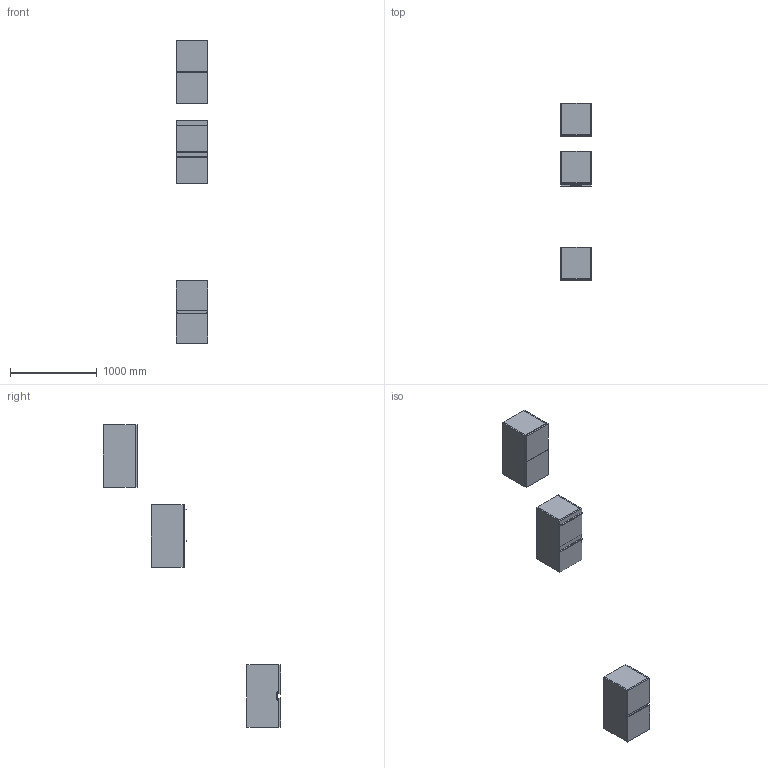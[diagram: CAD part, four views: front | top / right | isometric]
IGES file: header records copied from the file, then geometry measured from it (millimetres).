
Start section: Data from Parasolid IGES Translator 19.0.9, Copyright(c) 2006 Siemens PL M Software. All Rights Reserved.
Global section: file name: noorth-SI-H 72 D 38,8 W 36_8599.igs; native system: By Siemens PLM Incorporated; preprocessor: XPlus GENERIC/IGES 19.0.9; author: Noname; organization: Noname; date: 20200601.115346; units: metre
Bounding box: 360 x 2036 x 3480.32 mm (x, y, z)
Volume: 53189522.3 mm3; surface area: 8104093.7 mm2
Topology: 24 solids, 24 shells, 248 faces, 544 edges, 324 vertices
Faces by surface type: plane 164, extrusion 36, bspline 32, cylinder 16
